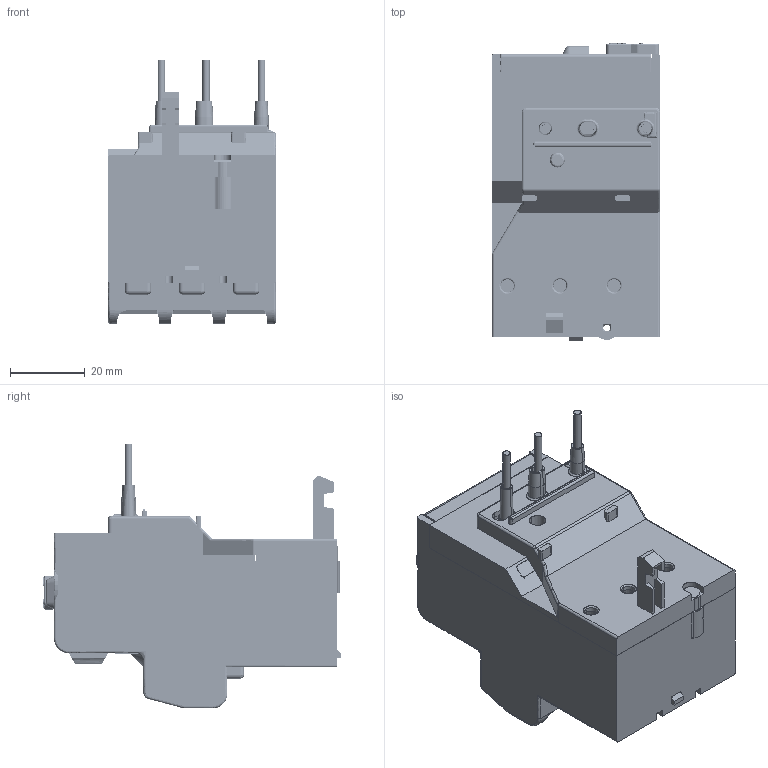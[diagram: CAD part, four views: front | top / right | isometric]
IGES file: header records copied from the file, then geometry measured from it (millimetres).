
Start section: SolidWorks IGES file using analytic representation for surfaces
Global section: file name: Q:\GROUPS\BR_SC_JGS_WA_TECNICO\ENG\Usuarios\Rodrigob\conversão\Reles de Sobrecarga\Produto\RW27-1D3\RW27-1D3.IGS; native system: SolidWorks 2009; preprocessor: SolidWorks 2009; author: rodrigob; date: 110520.144038; units: millimetre
Bounding box: 45 x 79.95 x 71 mm (x, y, z)
Surface area: 49301.8 mm2 (no closed solid volume)
Topology: 0 solids, 0 shells, 3180 faces, 29757 edges, 29664 vertices
Faces by surface type: bspline 2307, revolution 873
